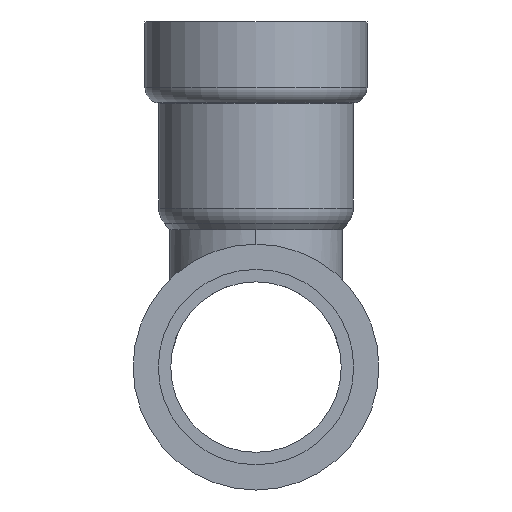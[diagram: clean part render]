
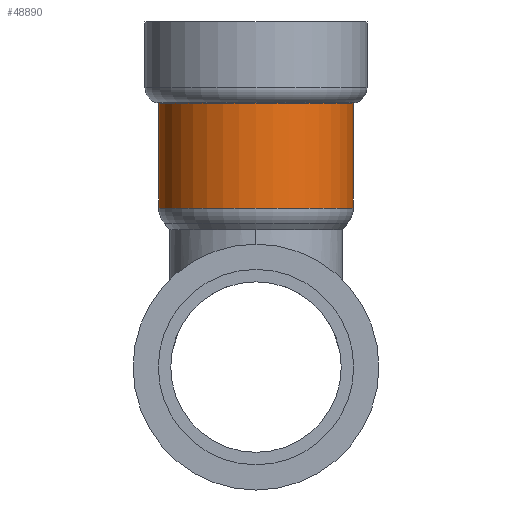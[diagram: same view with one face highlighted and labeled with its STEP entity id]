
A CAD part, left-side view. The second image highlights one B-rep face of the part: STEP entity #48890.
In plain terms, the highlighted cylindrical face has radius 24.55 mm (diameter 49.1 mm), a partial arc.
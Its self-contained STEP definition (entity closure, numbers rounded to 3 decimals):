
#5900=CARTESIAN_POINT('',(107.424,89.379,64.916));
#5910=DIRECTION('',(0.,0.,-1.));
#5920=VECTOR('',#5910,1.);
#5930=LINE('',#5900,#5920);
#5940=CARTESIAN_POINT('',(107.424,89.379,66.542));
#5950=VERTEX_POINT('',#5940);
#5960=CARTESIAN_POINT('',(107.424,89.379,40.112));
#5970=VERTEX_POINT('',#5960);
#5980=EDGE_CURVE('',#5950,#5970,#5930,.T.);
#6000=CARTESIAN_POINT('',(107.424,64.829,40.112));
#6010=DIRECTION('',(0.,0.,-1.));
#6020=DIRECTION('',(0.,1.,0.));
#6030=AXIS2_PLACEMENT_3D('',#6000,#6010,#6020);
#6040=CIRCLE('',#6030,24.55);
#6050=CARTESIAN_POINT('',(107.424,40.279,40.112));
#6060=VERTEX_POINT('',#6050);
#6090=CARTESIAN_POINT('',(107.424,40.279,64.916));
#6100=DIRECTION('',(0.,0.,-1.));
#6110=VECTOR('',#6100,1.);
#6120=LINE('',#6090,#6110);
#6130=CARTESIAN_POINT('',(107.424,40.279,66.542));
#6140=VERTEX_POINT('',#6130);
#6150=EDGE_CURVE('',#6140,#6060,#6120,.T.);
#6170=CARTESIAN_POINT('',(107.424,64.829,66.542));
#6180=DIRECTION('',(0.,0.,-1.));
#6190=DIRECTION('',(0.,1.,0.));
#6200=AXIS2_PLACEMENT_3D('',#6170,#6180,#6190);
#6210=CIRCLE('',#6200,24.55);
#47590=EDGE_CURVE('',#6140,#5950,#6210,.T.);
#48770=CARTESIAN_POINT('',(107.424,64.829,64.916))
;
#48780=DIRECTION('',(0.,0.,-1.));
#48790=DIRECTION('',(0.,1.,0.));
#48800=AXIS2_PLACEMENT_3D('',#48770,#48780,#48790);
#48810=CYLINDRICAL_SURFACE('',#48800,24.55);
#48820=ORIENTED_EDGE('',*,*,#5980,.T.);
#48830=ORIENTED_EDGE('',*,*,#47590,.T.);
#48840=ORIENTED_EDGE('',*,*,#6150,.F.);
#48850=EDGE_CURVE('',#6060,#5970,#6040,.T.);
#48860=ORIENTED_EDGE('',*,*,#48850,.F.);
#48870=EDGE_LOOP('',(#48860,#48840,#48830,#48820));
#48880=FACE_OUTER_BOUND('',#48870,.T.);
#48890=ADVANCED_FACE('',(#48880),#48810,.T.);
